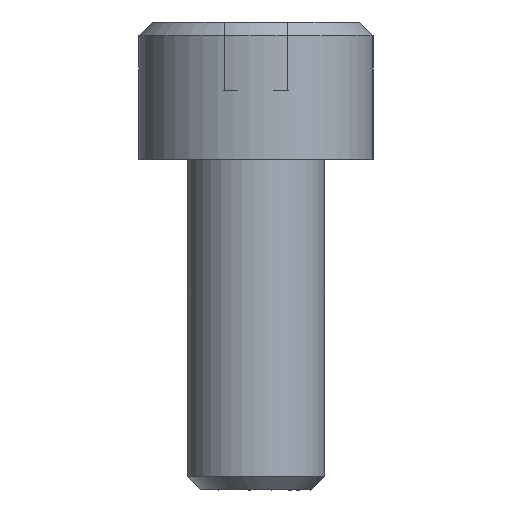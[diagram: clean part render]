
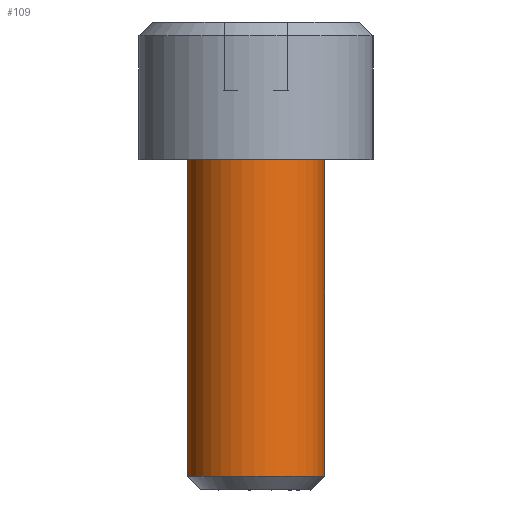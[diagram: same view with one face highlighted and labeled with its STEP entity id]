
A CAD part, left-side view. The second image highlights one B-rep face of the part: STEP entity #109.
In plain terms, the highlighted free-form (B-spline) face has degree [2, 1] with [9, 2] control points.
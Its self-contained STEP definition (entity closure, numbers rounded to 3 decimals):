
#109=ADVANCED_FACE('',(#184),#2238,.T.);
#184=FACE_OUTER_BOUND('',#261,.T.);
#261=EDGE_LOOP('',(#487,#488,#489,#490));
#487=ORIENTED_EDGE('',*,*,#1598,.F.);
#488=ORIENTED_EDGE('',*,*,#1641,.T.);
#489=ORIENTED_EDGE('',*,*,#1600,.F.);
#490=ORIENTED_EDGE('',*,*,#1640,.F.);
#680=(
BOUNDED_CURVE()
B_SPLINE_CURVE(2,(#3560,#3561,#3562,#3563,#3564),.UNSPECIFIED.,.F.,.F.)
B_SPLINE_CURVE_WITH_KNOTS((3,2,3),(-7.854,-3.927,0.),
 .UNSPECIFIED.)
CURVE()
GEOMETRIC_REPRESENTATION_ITEM()
RATIONAL_B_SPLINE_CURVE((1.,0.707,1.,0.707,1.))
REPRESENTATION_ITEM('')
);
#681=(
BOUNDED_CURVE()
B_SPLINE_CURVE(2,(#3573,#3574,#3575,#3576,#3577),.UNSPECIFIED.,.F.,.F.)
B_SPLINE_CURVE_WITH_KNOTS((3,2,3),(-7.854,-3.927,0.),
 .UNSPECIFIED.)
CURVE()
GEOMETRIC_REPRESENTATION_ITEM()
RATIONAL_B_SPLINE_CURVE((1.,0.707,1.,0.707,1.))
REPRESENTATION_ITEM('')
);
#685=(
BOUNDED_CURVE()
B_SPLINE_CURVE(2,(#3599,#3600,#3601,#3602,#3603),.UNSPECIFIED.,.F.,.F.)
B_SPLINE_CURVE_WITH_KNOTS((3,2,3),(-7.854,-3.927,0.),
 .UNSPECIFIED.)
CURVE()
GEOMETRIC_REPRESENTATION_ITEM()
RATIONAL_B_SPLINE_CURVE((1.,0.707,1.,0.707,1.))
REPRESENTATION_ITEM('')
);
#843=PCURVE('',#2233,#1167);
#845=PCURVE('',#2233,#1169);
#916=PCURVE('',#2237,#1240);
#919=PCURVE('',#2238,#1243);
#920=PCURVE('',#2238,#1244);
#921=PCURVE('',#2238,#1245);
#922=PCURVE('',#2238,#1246);
#925=PCURVE('',#2204,#1249);
#1167=DEFINITIONAL_REPRESENTATION('',(#1838),#4285);
#1169=DEFINITIONAL_REPRESENTATION('',(#1841),#4285);
#1240=DEFINITIONAL_REPRESENTATION('',(#1930),#4285);
#1243=DEFINITIONAL_REPRESENTATION('',(#1933),#4285);
#1244=DEFINITIONAL_REPRESENTATION('',(#1934),#4285);
#1245=DEFINITIONAL_REPRESENTATION('',(#1935),#4285);
#1246=DEFINITIONAL_REPRESENTATION('',(#1936),#4285);
#1249=DEFINITIONAL_REPRESENTATION('',(#685),#4285);
#1436=SURFACE_CURVE('',#1837,(#843,#919),.PCURVE_S1.);
#1438=SURFACE_CURVE('',#1840,(#845,#921),.PCURVE_S1.);
#1478=SURFACE_CURVE('',#680,(#916,#922),.PCURVE_S1.);
#1479=SURFACE_CURVE('',#681,(#920,#925),.PCURVE_S1.);
#1598=EDGE_CURVE('',#2116,#2117,#1436,.T.);
#1600=EDGE_CURVE('',#2118,#2119,#1438,.T.);
#1640=EDGE_CURVE('',#2117,#2118,#1478,.T.);
#1641=EDGE_CURVE('',#2116,#2119,#1479,.T.);
#1837=B_SPLINE_CURVE_WITH_KNOTS('',1,(#3296,#3297),.UNSPECIFIED.,.F.,.F.,
(2,2),(-11.51,0.),.UNSPECIFIED.);
#1838=B_SPLINE_CURVE_WITH_KNOTS('',1,(#3298,#3299),.UNSPECIFIED.,.F.,.F.,
(2,2),(-11.51,0.),.UNSPECIFIED.);
#1840=B_SPLINE_CURVE_WITH_KNOTS('',1,(#3307,#3308),.UNSPECIFIED.,.F.,.F.,
(2,2),(-11.51,0.),.UNSPECIFIED.);
#1841=B_SPLINE_CURVE_WITH_KNOTS('',1,(#3309,#3310),.UNSPECIFIED.,.F.,.F.,
(2,2),(-11.51,0.),.UNSPECIFIED.);
#1930=B_SPLINE_CURVE_WITH_KNOTS('',1,(#3565,#3566),.UNSPECIFIED.,.F.,.F.,
(2,2),(-7.854,0.),.UNSPECIFIED.);
#1933=B_SPLINE_CURVE_WITH_KNOTS('',1,(#3571,#3572),.UNSPECIFIED.,.F.,.F.,
(2,2),(-11.51,0.),.UNSPECIFIED.);
#1934=B_SPLINE_CURVE_WITH_KNOTS('',1,(#3578,#3579),.UNSPECIFIED.,.F.,.F.,
(2,2),(-7.854,0.),.UNSPECIFIED.);
#1935=B_SPLINE_CURVE_WITH_KNOTS('',1,(#3580,#3581),.UNSPECIFIED.,.F.,.F.,
(2,2),(-11.51,0.),.UNSPECIFIED.);
#1936=B_SPLINE_CURVE_WITH_KNOTS('',1,(#3582,#3583),.UNSPECIFIED.,.F.,.F.,
(2,2),(-7.854,0.),.UNSPECIFIED.);
#2116=VERTEX_POINT('',#3230);
#2117=VERTEX_POINT('',#3231);
#2118=VERTEX_POINT('',#3232);
#2119=VERTEX_POINT('',#3233);
#2204=PLANE('',#2324);
#2233=(
BOUNDED_SURFACE()
B_SPLINE_SURFACE(2,1,((#3065,#3066),(#3067,#3068),(#3069,#3070),(#3071,#3072),
(#3073,#3074),(#3075,#3076),(#3077,#3078),(#3079,#3080),(#3081,#3082)),
 .UNSPECIFIED.,.T.,.F.,.F.)
B_SPLINE_SURFACE_WITH_KNOTS((3,2,2,2,3),(2,2),(0.,1.571,3.142,
4.712,6.283),(0.,13.814),.UNSPECIFIED.)
GEOMETRIC_REPRESENTATION_ITEM()
RATIONAL_B_SPLINE_SURFACE(((1.,1.),(0.707,0.707),
(1.,1.),(0.707,0.707),(1.,1.),(0.707,
0.707),(1.,1.),(0.707,0.707),(1.,1.)))
REPRESENTATION_ITEM('')
SURFACE()
);
#2237=(
BOUNDED_SURFACE()
B_SPLINE_SURFACE(2,1,((#3150,#3151),(#3152,#3153),(#3154,#3155),(#3156,#3157),
(#3158,#3159),(#3160,#3161),(#3162,#3163),(#3164,#3165),(#3166,#3167)),
 .UNSPECIFIED.,.T.,.F.,.F.)
B_SPLINE_SURFACE_WITH_KNOTS((3,2,2,2,3),(2,2),(0.,1.571,3.142,
4.712,6.283),(0.,3.891),.UNSPECIFIED.)
GEOMETRIC_REPRESENTATION_ITEM()
RATIONAL_B_SPLINE_SURFACE(((1.,1.),(0.707,0.707),
(1.,1.),(0.707,0.707),(1.,1.),(0.707,
0.707),(1.,1.),(0.707,0.707),(1.,1.)))
REPRESENTATION_ITEM('')
SURFACE()
);
#2238=(
BOUNDED_SURFACE()
B_SPLINE_SURFACE(2,1,((#3168,#3169),(#3170,#3171),(#3172,#3173),(#3174,#3175),
(#3176,#3177),(#3178,#3179),(#3180,#3181),(#3182,#3183),(#3184,#3185)),
 .UNSPECIFIED.,.T.,.F.,.F.)
B_SPLINE_SURFACE_WITH_KNOTS((3,2,2,2,3),(2,2),(0.,1.571,3.142,
4.712,6.283),(0.,13.814),.UNSPECIFIED.)
GEOMETRIC_REPRESENTATION_ITEM()
RATIONAL_B_SPLINE_SURFACE(((1.,1.),(0.707,0.707),
(1.,1.),(0.707,0.707),(1.,1.),(0.707,
0.707),(1.,1.),(0.707,0.707),(1.,1.)))
REPRESENTATION_ITEM('')
SURFACE()
);
#2324=AXIS2_PLACEMENT_3D('',#3186,#2379,$);
#2379=DIRECTION('',(0.,0.,1.));
#3065=CARTESIAN_POINT('',(-272.5,-575.,189.152));
#3066=CARTESIAN_POINT('',(-272.5,-575.,175.338));
#3067=CARTESIAN_POINT('',(-272.5,-577.5,189.152));
#3068=CARTESIAN_POINT('',(-272.5,-577.5,175.338));
#3069=CARTESIAN_POINT('',(-270.,-577.5,189.152));
#3070=CARTESIAN_POINT('',(-270.,-577.5,175.338));
#3071=CARTESIAN_POINT('',(-267.5,-577.5,189.152));
#3072=CARTESIAN_POINT('',(-267.5,-577.5,175.338));
#3073=CARTESIAN_POINT('',(-267.5,-575.,189.152));
#3074=CARTESIAN_POINT('',(-267.5,-575.,175.338));
#3075=CARTESIAN_POINT('',(-267.5,-572.5,189.152));
#3076=CARTESIAN_POINT('',(-267.5,-572.5,175.338));
#3077=CARTESIAN_POINT('',(-270.,-572.5,189.152));
#3078=CARTESIAN_POINT('',(-270.,-572.5,175.338));
#3079=CARTESIAN_POINT('',(-272.5,-572.5,189.152));
#3080=CARTESIAN_POINT('',(-272.5,-572.5,175.338));
#3081=CARTESIAN_POINT('',(-272.5,-575.,189.152));
#3082=CARTESIAN_POINT('',(-272.5,-575.,175.338));
#3150=CARTESIAN_POINT('',(-270.,-575.,173.991));
#3151=CARTESIAN_POINT('',(-267.249,-575.,176.742));
#3152=CARTESIAN_POINT('',(-270.,-575.,173.991));
#3153=CARTESIAN_POINT('',(-267.249,-577.751,176.742));
#3154=CARTESIAN_POINT('',(-270.,-575.,173.991));
#3155=CARTESIAN_POINT('',(-270.,-577.751,176.742));
#3156=CARTESIAN_POINT('',(-270.,-575.,173.991));
#3157=CARTESIAN_POINT('',(-272.751,-577.751,176.742));
#3158=CARTESIAN_POINT('',(-270.,-575.,173.991));
#3159=CARTESIAN_POINT('',(-272.751,-575.,176.742));
#3160=CARTESIAN_POINT('',(-270.,-575.,173.991));
#3161=CARTESIAN_POINT('',(-272.751,-572.249,176.742));
#3162=CARTESIAN_POINT('',(-270.,-575.,173.991));
#3163=CARTESIAN_POINT('',(-270.,-572.249,176.742));
#3164=CARTESIAN_POINT('',(-270.,-575.,173.991));
#3165=CARTESIAN_POINT('',(-267.249,-572.249,176.742));
#3166=CARTESIAN_POINT('',(-270.,-575.,173.991));
#3167=CARTESIAN_POINT('',(-267.249,-575.,176.742));
#3168=CARTESIAN_POINT('',(-267.5,-575.,189.152));
#3169=CARTESIAN_POINT('',(-267.5,-575.,175.338));
#3170=CARTESIAN_POINT('',(-267.5,-572.5,189.152));
#3171=CARTESIAN_POINT('',(-267.5,-572.5,175.338));
#3172=CARTESIAN_POINT('',(-270.,-572.5,189.152));
#3173=CARTESIAN_POINT('',(-270.,-572.5,175.338));
#3174=CARTESIAN_POINT('',(-272.5,-572.5,189.152));
#3175=CARTESIAN_POINT('',(-272.5,-572.5,175.338));
#3176=CARTESIAN_POINT('',(-272.5,-575.,189.152));
#3177=CARTESIAN_POINT('',(-272.5,-575.,175.338));
#3178=CARTESIAN_POINT('',(-272.5,-577.5,189.152));
#3179=CARTESIAN_POINT('',(-272.5,-577.5,175.338));
#3180=CARTESIAN_POINT('',(-270.,-577.5,189.152));
#3181=CARTESIAN_POINT('',(-270.,-577.5,175.338));
#3182=CARTESIAN_POINT('',(-267.5,-577.5,189.152));
#3183=CARTESIAN_POINT('',(-267.5,-577.5,175.338));
#3184=CARTESIAN_POINT('',(-267.5,-575.,189.152));
#3185=CARTESIAN_POINT('',(-267.5,-575.,175.338));
#3186=CARTESIAN_POINT('',(-275.101,-569.899,188.));
#3230=CARTESIAN_POINT('',(-270.,-572.5,188.));
#3231=CARTESIAN_POINT('',(-270.,-572.5,176.491));
#3232=CARTESIAN_POINT('',(-270.,-577.5,176.491));
#3233=CARTESIAN_POINT('',(-270.,-577.5,188.));
#3296=CARTESIAN_POINT('',(-270.,-572.5,188.));
#3297=CARTESIAN_POINT('',(-270.,-572.5,176.491));
#3298=CARTESIAN_POINT('',(4.712,1.152));
#3299=CARTESIAN_POINT('',(4.712,12.662));
#3307=CARTESIAN_POINT('',(-270.,-577.5,176.491));
#3308=CARTESIAN_POINT('',(-270.,-577.5,188.));
#3309=CARTESIAN_POINT('',(1.571,12.662));
#3310=CARTESIAN_POINT('',(1.571,1.152));
#3560=CARTESIAN_POINT('',(-270.,-572.5,176.491));
#3561=CARTESIAN_POINT('',(-272.5,-572.5,176.491));
#3562=CARTESIAN_POINT('',(-272.5,-575.,176.491));
#3563=CARTESIAN_POINT('',(-272.5,-577.5,176.491));
#3564=CARTESIAN_POINT('',(-270.,-577.5,176.491));
#3565=CARTESIAN_POINT('',(4.712,3.536));
#3566=CARTESIAN_POINT('',(1.571,3.536));
#3571=CARTESIAN_POINT('',(1.571,1.152));
#3572=CARTESIAN_POINT('',(1.571,12.662));
#3573=CARTESIAN_POINT('',(-270.,-572.5,188.));
#3574=CARTESIAN_POINT('',(-272.5,-572.5,188.));
#3575=CARTESIAN_POINT('',(-272.5,-575.,188.));
#3576=CARTESIAN_POINT('',(-272.5,-577.5,188.));
#3577=CARTESIAN_POINT('',(-270.,-577.5,188.));
#3578=CARTESIAN_POINT('',(1.571,1.152));
#3579=CARTESIAN_POINT('',(4.712,1.152));
#3580=CARTESIAN_POINT('',(4.712,12.662));
#3581=CARTESIAN_POINT('',(4.712,1.152));
#3582=CARTESIAN_POINT('',(1.571,12.662));
#3583=CARTESIAN_POINT('',(4.712,12.662));
#3599=CARTESIAN_POINT('',(0.875,0.));
#3600=CARTESIAN_POINT('',(0.875,-2.5));
#3601=CARTESIAN_POINT('',(3.375,-2.5));
#3602=CARTESIAN_POINT('',(5.875,-2.5));
#3603=CARTESIAN_POINT('',(5.875,0.));
#4285=(
GEOMETRIC_REPRESENTATION_CONTEXT(2)
PARAMETRIC_REPRESENTATION_CONTEXT()
REPRESENTATION_CONTEXT('pspace','')
);
